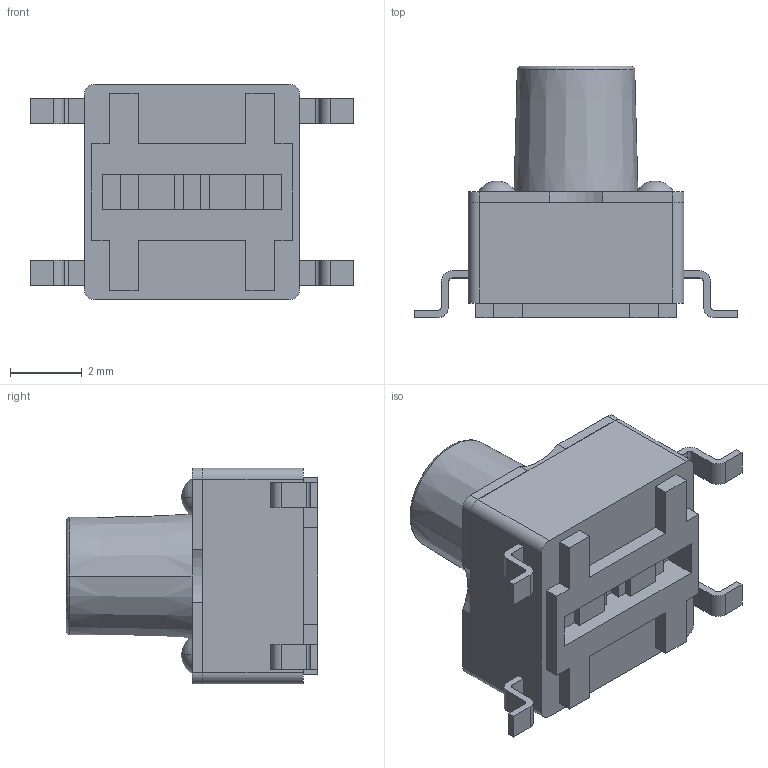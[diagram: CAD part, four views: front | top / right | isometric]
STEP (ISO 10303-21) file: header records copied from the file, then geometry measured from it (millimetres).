
FILE_DESCRIPTION((''),'2;1');
FILE_NAME('TSS-63N-LF_ASM','2016-11-21T',('Administrator'),(''),'PRO/ENGINEER BY PARAMETRIC TECHNOLOGY CORPORATION, 2010370','PRO/ENGINEER BY PARAMETRIC TECHNOLOGY CORPORATION, 2010370','');
FILE_SCHEMA(('CONFIG_CONTROL_DESIGN'));
Length unit declared in the file: millimetre
Products named in the file (5): 11-80606_3_2; 11-80610_5_1; 11-86500_2_1; ASM0003_ASM_1_ASM; TSS-63N-LF_ASM
Assembly tree (4 placements, depth 3):
  TSS-63N-LF_ASM
    ASM0003_ASM_1_ASM
      11-80606_3_2
      11-80610_5_1
      11-86500_2_1
Bounding box: 9 x 7 x 6 mm (x, y, z)
Volume: 112.2 mm3; surface area: 346.9 mm2
Topology: 3 solids, 3 shells, 172 faces, 466 edges, 308 vertices
Faces by surface type: plane 108, cylinder 52, sphere 8, cone 2, torus 2
Entity records: 5543 total; most frequent: DIRECTION 960, CARTESIAN_POINT 950, ORIENTED_EDGE 916, EDGE_CURVE 458, VECTOR 324, LINE 324, AXIS2_PLACEMENT_3D 318, VERTEX_POINT 308
